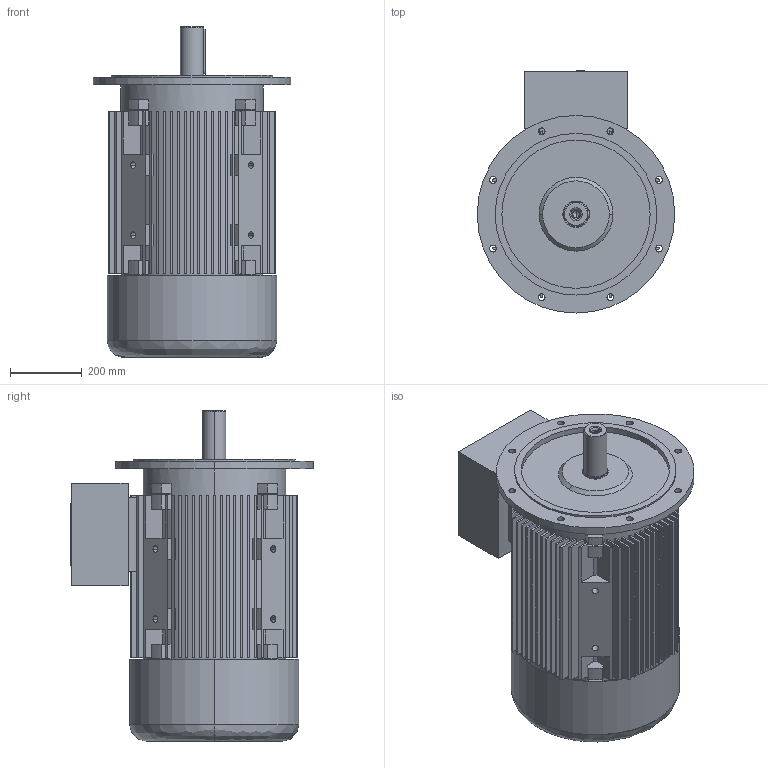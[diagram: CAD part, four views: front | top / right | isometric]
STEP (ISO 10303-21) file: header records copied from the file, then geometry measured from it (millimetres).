
FILE_DESCRIPTION (( 'STEP AP203' ), '1' );
FILE_NAME ('20.18428_B 7AT 250M - 4, -6,-8 B5 STANDK .STEP', '2018-04-26T05:17:51', ( '' ), ( '' ), 'SwSTEP 2.0', 'SolidWorks 2017', '' );
FILE_SCHEMA (( 'CONFIG_CONTROL_DESIGN' ));
Length unit declared in the file: millimetre
Products named in the file (1): 20.18428_B 7AT 250M - 4, -6,-8 B5 STANDK 
Bounding box: 550 x 674 x 920 mm (x, y, z)
Volume: 47582278.2 mm3; surface area: 6060929.9 mm2
Topology: 5 solids, 5 shells, 785 faces, 2099 edges, 1381 vertices
Faces by surface type: plane 612, cylinder 126, cone 34, bspline 13
Entity records: 25077 total; most frequent: CARTESIAN_POINT 5069, ORIENTED_EDGE 4162, DIRECTION 4097, EDGE_CURVE 2081, LINE 1543, VECTOR 1543, VERTEX_POINT 1381, AXIS2_PLACEMENT_3D 1277
